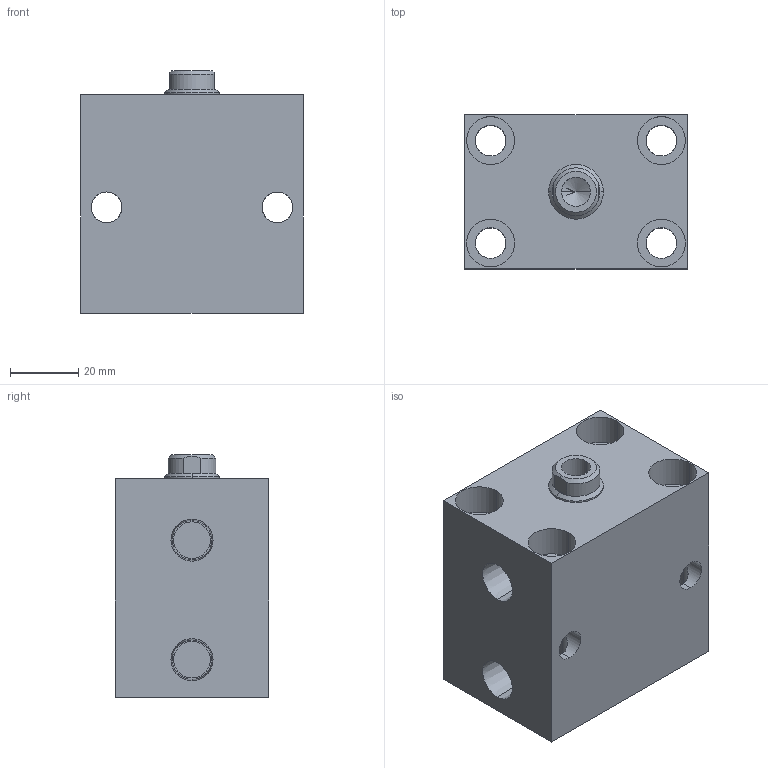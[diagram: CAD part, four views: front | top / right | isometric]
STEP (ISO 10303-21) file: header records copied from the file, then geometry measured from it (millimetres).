
FILE_DESCRIPTION (( 'STEP AP203' ), '1' );
FILE_NAME ('HBC-25D-20N.STEP', '2019-11-29T08:53:28', ( '微软用户' ), ( '微软中国' ), 'SwSTEP 2.0', 'SolidWorks 2012', '' );
FILE_SCHEMA (( 'CONFIG_CONTROL_DESIGN' ));
Length unit declared in the file: millimetre
Products named in the file (3): HBC-25D-20N活塞杆; HBC-25D-20N; HBC-25D-20N掛极
Assembly tree (2 placements, depth 2):
  HBC-25D-20N
    HBC-25D-20N掛极
    HBC-25D-20N活塞杆
Bounding box: 65 x 45 x 71 mm (x, y, z)
Volume: 155080.4 mm3; surface area: 38563.9 mm2
Topology: 2 solids, 2 shells, 85 faces, 202 edges, 123 vertices
Faces by surface type: cylinder 52, plane 23, cone 10
Entity records: 2785 total; most frequent: CARTESIAN_POINT 525, DIRECTION 430, ORIENTED_EDGE 400, EDGE_CURVE 200, AXIS2_PLACEMENT_3D 176, VERTEX_POINT 123, EDGE_LOOP 109, CIRCLE 86
